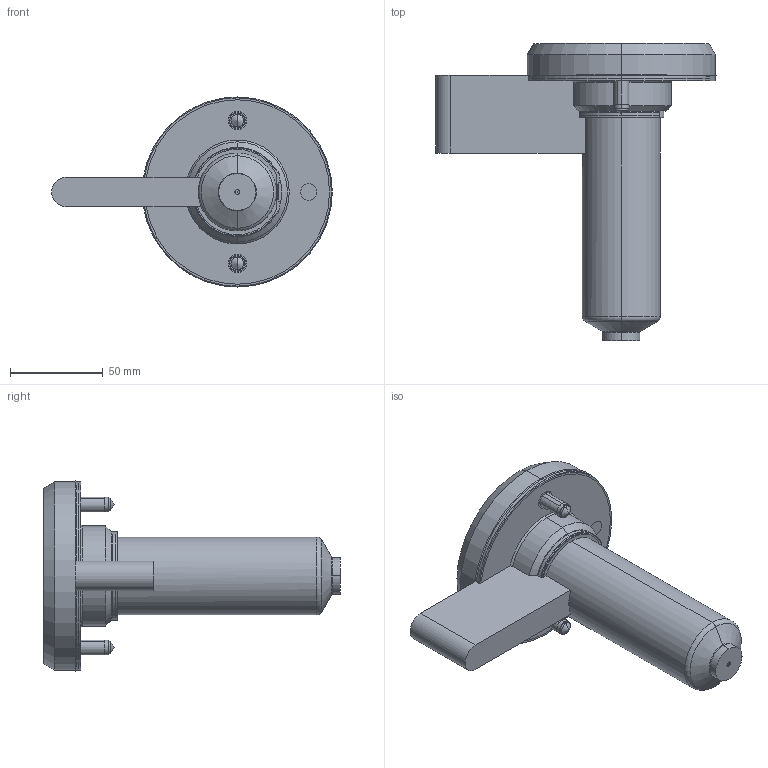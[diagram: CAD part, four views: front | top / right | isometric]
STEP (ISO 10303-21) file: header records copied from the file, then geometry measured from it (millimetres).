
FILE_DESCRIPTION (( 'STEP AP214' ), '1' );
FILE_NAME ('SOHSB16120-SOFBOP16.STEP', '2024-11-28T08:54:01', ( '' ), ( '' ), 'SwSTEP 2.0', 'SolidWorks 2022', '' );
FILE_SCHEMA (( 'AUTOMOTIVE_DESIGN' ));
Length unit declared in the file: millimetre
Products named in the file (11): EcoONE-HSB16-16005_SOTC10350-J; socket head cap screw_iso_ISO 4762 M8 x 25 - 25N; EcoONE-HSB16-00002(A)_SOHSBLR16; EcoONE-HSB16-16003(A)_SOHSBNB16120; EcoONE-HSB16-Open Gate Cut-out Details_Sprue Gate or Full Body Gate; EcoONE-HSB16-Open Gate Full Body Standad Tip Assembly_SOFBOP16; SOHSB16120-SOFBOP16; EcoONE-HSB16-Point Gate Needle Tip-Standard_SOPGN1601; EcoONE-HSB16-16004_SONH28112; EcoONE-HSB16-Open Gate Full Body Retainer Tip_SOFRT1601; EcoONE-HSB16-16006_SONHC16
Assembly tree (12 placements, depth 3):
  SOHSB16120-SOFBOP16
    EcoONE-HSB16-16003(A)_SOHSBNB16120
    EcoONE-HSB16-16004_SONH28112
    EcoONE-HSB16-16005_SOTC10350-J
    EcoONE-HSB16-16006_SONHC16  x2
    EcoONE-HSB16-00002(A)_SOHSBLR16
    socket head cap screw_iso_ISO 4762 M8 x 25 - 25N  x2
    EcoONE-HSB16-Open Gate Full Body Standad Tip Assembly_SOFBOP16
      EcoONE-HSB16-Open Gate Full Body Retainer Tip_SOFRT1601
      EcoONE-HSB16-Point Gate Needle Tip-Standard_SOPGN1601
    EcoONE-HSB16-Open Gate Cut-out Details_Sprue Gate or Full Body Gate
Bounding box: 151.2 x 160 x 102.4 mm (x, y, z)
Volume: 508409.7 mm3; surface area: 127199.3 mm2
Topology: 11 solids, 11 shells, 510 faces, 1276 edges, 800 vertices
Faces by surface type: cylinder 156, plane 139, bspline 98, cone 83, torus 26, sphere 8
Entity records: 28501 total; most frequent: CARTESIAN_POINT 17126, ORIENTED_EDGE 2328, DIRECTION 1980, EDGE_CURVE 1164, AXIS2_PLACEMENT_3D 798, VERTEX_POINT 737, EDGE_LOOP 505, ADVANCED_FACE 467
